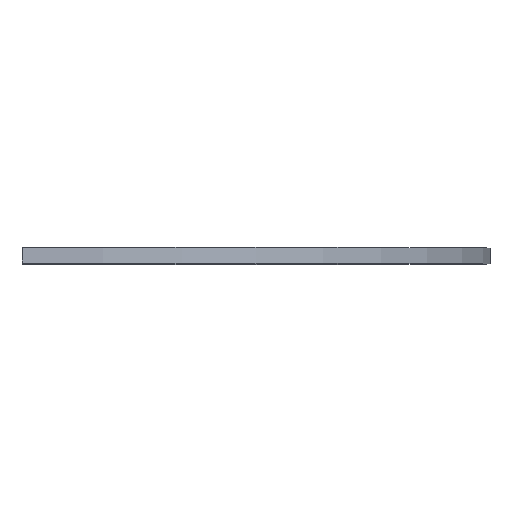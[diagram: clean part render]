
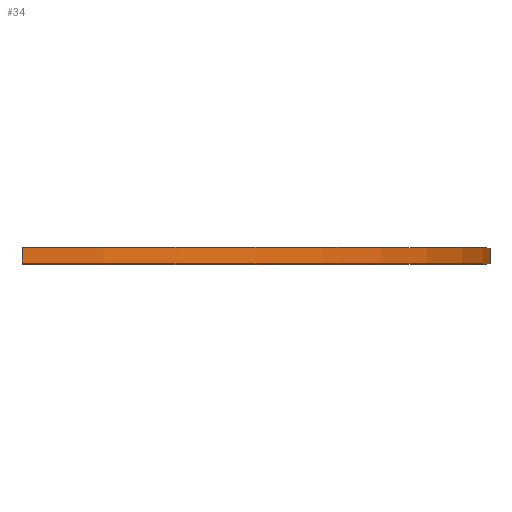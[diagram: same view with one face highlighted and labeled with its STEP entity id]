
A CAD part, top view. The second image highlights one B-rep face of the part: STEP entity #34.
In plain terms, the highlighted cylindrical face has radius 529.4 mm (diameter 1058.8 mm), a partial arc.
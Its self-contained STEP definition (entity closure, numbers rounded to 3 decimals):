
#34=ADVANCED_FACE('',(#36),#35,.F.);
#35=CYLINDRICAL_SURFACE('',#59,529.4);
#36=FACE_OUTER_BOUND('',#37,.T.);
#37=EDGE_LOOP('',(#42,#43,#44,#45));
#38=LINE('',#74,#40);
#39=LINE('',#78,#41);
#40=VECTOR('',#64,1.);
#41=VECTOR('',#67,1.);
#42=ORIENTED_EDGE('',*,*,#50,.T.);
#43=ORIENTED_EDGE('',*,*,#51,.T.);
#44=ORIENTED_EDGE('',*,*,#52,.T.);
#45=ORIENTED_EDGE('',*,*,#53,.T.);
#46=VERTEX_POINT('',#72);
#47=VERTEX_POINT('',#73);
#48=VERTEX_POINT('',#75);
#49=VERTEX_POINT('',#77);
#50=EDGE_CURVE('',#46,#47,#54,.T.);
#51=EDGE_CURVE('',#47,#48,#38,.T.);
#52=EDGE_CURVE('',#48,#49,#55,.T.);
#53=EDGE_CURVE('',#49,#46,#39,.T.);
#54=CIRCLE('',#57,529.4);
#55=CIRCLE('',#58,529.4);
#57=AXIS2_PLACEMENT_3D('',#71,#62,#63);
#58=AXIS2_PLACEMENT_3D('',#76,#65,#66);
#59=AXIS2_PLACEMENT_3D('',#79,#68,#69);
#62=DIRECTION('',(0.,1.,0.));
#63=DIRECTION('',(1.,0.,0.));
#64=DIRECTION('',(0.,-1.,0.));
#65=DIRECTION('',(0.,-1.,0.));
#66=DIRECTION('',(1.,0.,0.));
#67=DIRECTION('',(0.,1.,0.));
#68=DIRECTION('',(0.,1.,0.));
#69=DIRECTION('',(0.,0.,1.));
#71=CARTESIAN_POINT('',(0.,18.,0.));
#72=CARTESIAN_POINT('',(0.,18.,529.4));
#73=CARTESIAN_POINT('',(0.,18.,-529.4));
#74=CARTESIAN_POINT('',(0.,0.,-529.4));
#75=CARTESIAN_POINT('',(0.,0.,-529.4));
#76=CARTESIAN_POINT('',(0.,0.,0.));
#77=CARTESIAN_POINT('',(0.,0.,529.4));
#78=CARTESIAN_POINT('',(0.,0.,529.4));
#79=CARTESIAN_POINT('',(0.,0.,0.));
